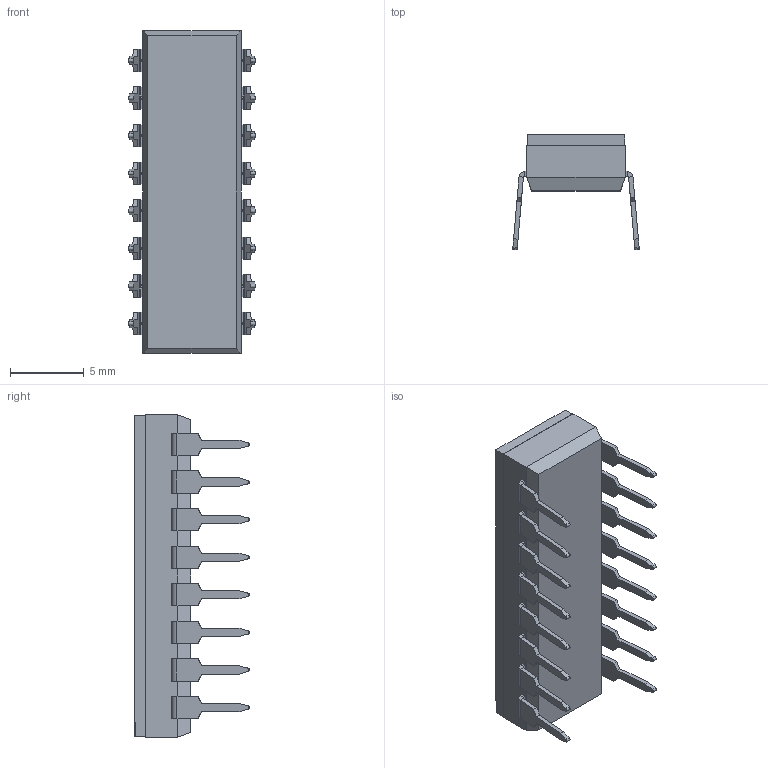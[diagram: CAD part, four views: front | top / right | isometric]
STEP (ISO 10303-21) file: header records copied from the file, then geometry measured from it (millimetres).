
FILE_DESCRIPTION (( 'STEP AP203' ), '1' );
FILE_NAME ('209-8LPS.STEP', '2019-05-24T07:16:09', ( '' ), ( '' ), 'SwSTEP 2.0', 'SolidWorks 2019', '' );
FILE_SCHEMA (( 'CONFIG_CONTROL_DESIGN' ));
Length unit declared in the file: millimetre
Products named in the file (5): 209-02-208 mold housing for 209; 209-40-208 for 209; 219-56-001; 209-83-001-06-01 lead frame; 209-8LPS
Assembly tree (18 placements, depth 2):
  209-8LPS
    209-02-208 mold housing for 209
    209-40-208 for 209
    219-56-001  x8
    209-83-001-06-01 lead frame  x8
Bounding box: 8.55 x 7.76 x 21.8 mm (x, y, z)
Volume: 470.6 mm3; surface area: 1544.3 mm2
Topology: 26 solids, 26 shells, 1132 faces, 2900 edges, 1836 vertices
Faces by surface type: plane 713, bspline 211, cylinder 176, sphere 32
Entity records: 27637 total; most frequent: CARTESIAN_POINT 15099, ORIENTED_EDGE 2768, DIRECTION 1672, EDGE_CURVE 1384, VECTOR 918, LINE 918, VERTEX_POINT 912, EDGE_LOOP 584
